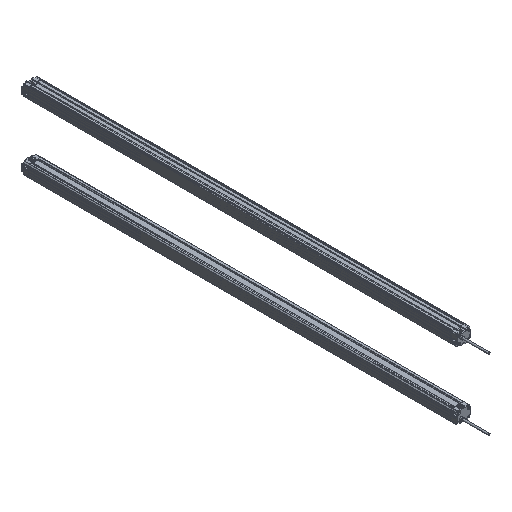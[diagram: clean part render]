
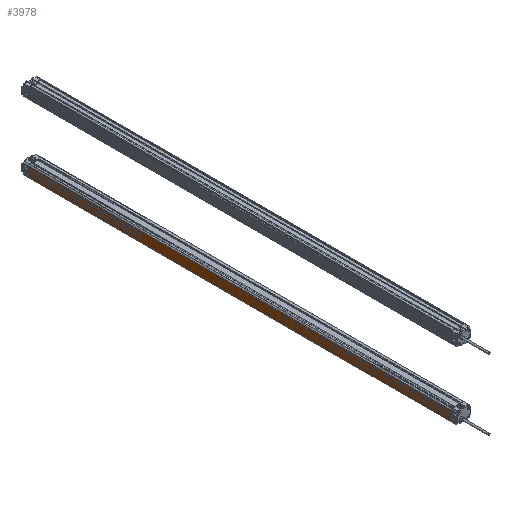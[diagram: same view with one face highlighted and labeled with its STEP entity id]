
A CAD part, isometric view. The second image highlights one B-rep face of the part: STEP entity #3978.
In plain terms, the highlighted planar face has unit normal (-1, 0, 0).
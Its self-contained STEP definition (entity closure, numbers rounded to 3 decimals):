
#1035 = VERTEX_POINT ( 'NONE', #8006 ) ;
#1274 = CARTESIAN_POINT ( 'NONE',  ( -12.5, -760., -9.2 ) ) ;
#2047 = ORIENTED_EDGE ( 'NONE', *, *, #7278, .T. ) ;
#2458 = DIRECTION ( 'NONE',  ( -1., 0., 0. ) ) ;
#3852 = VERTEX_POINT ( 'NONE', #1274 ) ;
#3871 = CARTESIAN_POINT ( 'NONE',  ( -12.5, 0., 8.293 ) ) ;
#3900 = VECTOR ( 'NONE', #5608, 1000. ) ;
#3978 = ADVANCED_FACE ( 'NONE', ( #9179 ), #7635, .T. ) ;
#4145 = CARTESIAN_POINT ( 'NONE',  ( -12.5, -760., 8.293 ) ) ;
#4228 = VECTOR ( 'NONE', #5818, 1000. ) ;
#4291 = DIRECTION ( 'NONE',  ( 0., 1., 0. ) ) ;
#4356 = ORIENTED_EDGE ( 'NONE', *, *, #6877, .F. ) ;
#4416 = VERTEX_POINT ( 'NONE', #3871 ) ;
#4579 = DIRECTION ( 'NONE',  ( 0., 0., 1. ) ) ;
#4678 = ORIENTED_EDGE ( 'NONE', *, *, #9066, .T. ) ;
#4757 = LINE ( 'NONE', #4145, #4228 ) ;
#5047 = DIRECTION ( 'NONE',  ( 0., 0., 1. ) ) ;
#5288 = LINE ( 'NONE', #9480, #5823 ) ;
#5608 = DIRECTION ( 'NONE',  ( 0., 0., 1. ) ) ;
#5818 = DIRECTION ( 'NONE',  ( 0., 1., 0. ) ) ;
#5823 = VECTOR ( 'NONE', #4579, 1000. ) ;
#5824 = EDGE_LOOP ( 'NONE', ( #7002, #4356, #4678, #2047 ) ) ;
#6355 = VECTOR ( 'NONE', #4291, 1000. ) ;
#6877 = EDGE_CURVE ( 'NONE', #3852, #7104, #7769, .T. ) ;
#7002 = ORIENTED_EDGE ( 'NONE', *, *, #7511, .F. ) ;
#7080 = CARTESIAN_POINT ( 'NONE',  ( -12.5, -760., -9.2 ) ) ;
#7104 = VERTEX_POINT ( 'NONE', #8907 ) ;
#7278 = EDGE_CURVE ( 'NONE', #1035, #4416, #4757, .T. ) ;
#7511 = EDGE_CURVE ( 'NONE', #7104, #4416, #5288, .T. ) ;
#7635 = PLANE ( 'NONE',  #8707 ) ;
#7712 = CARTESIAN_POINT ( 'NONE',  ( -12.5, -760., -9.2 ) ) ;
#7769 = LINE ( 'NONE', #7712, #6355 ) ;
#8006 = CARTESIAN_POINT ( 'NONE',  ( -12.5, -760., 8.293 ) ) ;
#8707 = AXIS2_PLACEMENT_3D ( 'NONE', #10124, #2458, #5047 ) ;
#8907 = CARTESIAN_POINT ( 'NONE',  ( -12.5, 0., -9.2 ) ) ;
#9066 = EDGE_CURVE ( 'NONE', #3852, #1035, #9875, .T. ) ;
#9179 = FACE_OUTER_BOUND ( 'NONE', #5824, .T. ) ;
#9480 = CARTESIAN_POINT ( 'NONE',  ( -12.5, 0., -9.2 ) ) ;
#9875 = LINE ( 'NONE', #7080, #3900 ) ;
#10124 = CARTESIAN_POINT ( 'NONE',  ( -12.5, -760., -9.2 ) ) ;
